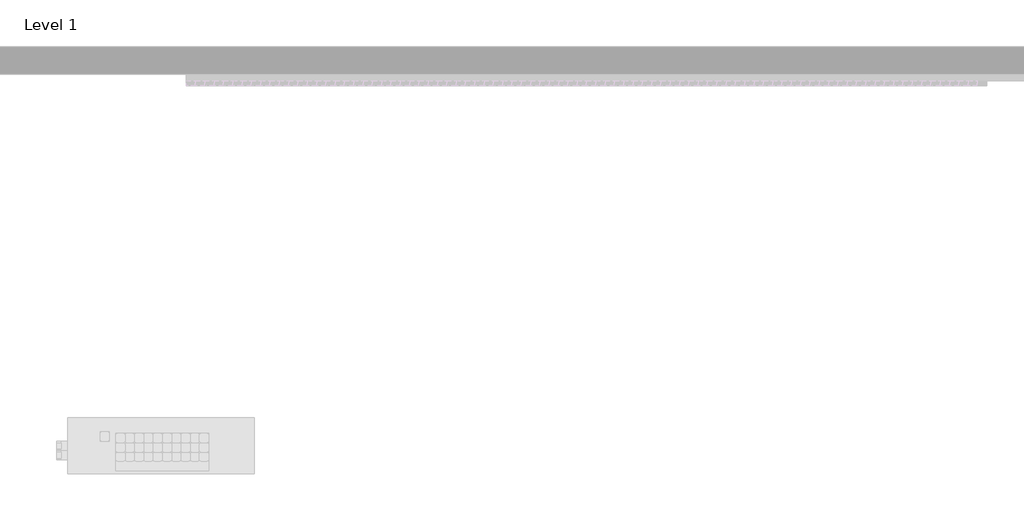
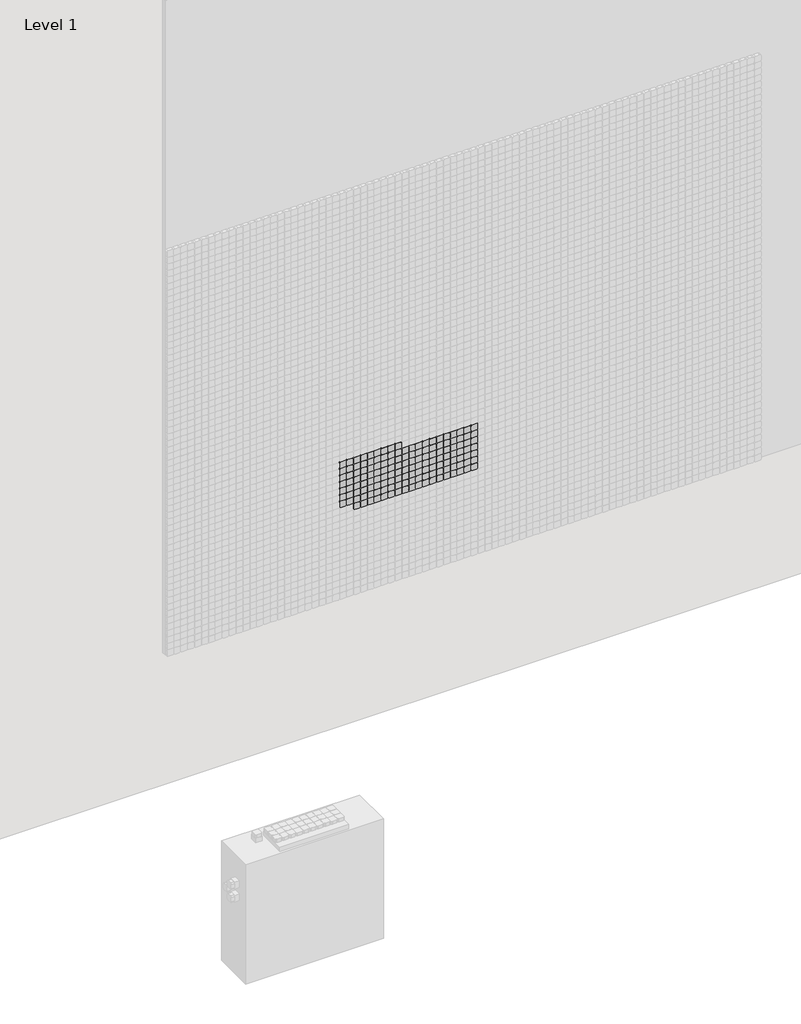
# One storey, part 32 of 71: 147 proxies.
"""IFC4 building model written with IfcOpenShell, lengths in millimetres."""

from ifc_helpers import new_model, si_unit, origin, place, context, project, spatial, transform, mapped, element, save
from components import generic_models_afde289c

model = new_model("IFC4")

# Units and contexts
model_context = context("Model", 3, world=origin())
ifc_project = project(units=[si_unit("LENGTHUNIT", "METRE", prefix="MILLI")], contexts=[model_context])

# Site, building, storey
site = spatial("IfcSite", under=ifc_project)
building = spatial("IfcBuilding", under=site)
storey = spatial("IfcBuildingStorey", under=building, Name="Level 1", Elevation=0.0)

# Proxies
placement = place(None, origin())
generic_models_shape = generic_models_afde289c(model_context)
element("IfcBuildingElementProxy", 1, Name="Pixel_M : Pixel_M", ObjectType="Pixel_M : Pixel_M", at=placement, inside=storey, context=model_context, shape_type="MappedRepresentation", body=[
    mapped(generic_models_shape, transform((6412.4280941, -75.0, 2016.3566215), x_axis=(1.0, 0.0, 0.0), y_axis=(0.0, 0.0, 1.0), z_axis=(0.0, -1.0, 0.0))),
])
element("IfcBuildingElementProxy", 2, Name="Pixel_M : Pixel_M", ObjectType="Pixel_M : Pixel_M", at=placement, inside=storey, context=model_context, shape_type="MappedRepresentation", body=[
    mapped(generic_models_shape, transform((6362.4280941, -75.0, 2016.3566215), x_axis=(1.0, 0.0, 0.0), y_axis=(0.0, 0.0, 1.0), z_axis=(0.0, -1.0, 0.0))),
])
element("IfcBuildingElementProxy", 3, Name="Pixel_M : Pixel_M", ObjectType="Pixel_M : Pixel_M", at=placement, inside=storey, context=model_context, shape_type="MappedRepresentation", body=[
    mapped(generic_models_shape, transform((6312.4280941, -75.0, 2016.3566215), x_axis=(1.0, 0.0, 0.0), y_axis=(0.0, 0.0, 1.0), z_axis=(0.0, -1.0, 0.0))),
])
element("IfcBuildingElementProxy", 4, Name="Pixel_M : Pixel_M", ObjectType="Pixel_M : Pixel_M", at=placement, inside=storey, context=model_context, shape_type="MappedRepresentation", body=[
    mapped(generic_models_shape, transform((6262.4280941, -75.0, 2016.3566215), x_axis=(1.0, 0.0, 0.0), y_axis=(0.0, 0.0, 1.0), z_axis=(0.0, -1.0, 0.0))),
])
element("IfcBuildingElementProxy", 5, Name="Pixel_M : Pixel_M", ObjectType="Pixel_M : Pixel_M", at=placement, inside=storey, context=model_context, shape_type="MappedRepresentation", body=[
    mapped(generic_models_shape, transform((6212.4280941, -75.0, 2016.3566215), x_axis=(1.0, 0.0, 0.0), y_axis=(0.0, 0.0, 1.0), z_axis=(0.0, -1.0, 0.0))),
])
element("IfcBuildingElementProxy", 6, Name="Pixel_M : Pixel_M", ObjectType="Pixel_M : Pixel_M", at=placement, inside=storey, context=model_context, shape_type="MappedRepresentation", body=[
    mapped(generic_models_shape, transform((6162.4280941, -75.0, 2016.3566215), x_axis=(1.0, 0.0, 0.0), y_axis=(0.0, 0.0, 1.0), z_axis=(0.0, -1.0, 0.0))),
])
element("IfcBuildingElementProxy", 7, Name="Pixel_M : Pixel_M", ObjectType="Pixel_M : Pixel_M", at=placement, inside=storey, context=model_context, shape_type="MappedRepresentation", body=[
    mapped(generic_models_shape, transform((6112.4280941, -75.0, 2016.3566215), x_axis=(1.0, 0.0, 0.0), y_axis=(0.0, 0.0, 1.0), z_axis=(0.0, -1.0, 0.0))),
])
element("IfcBuildingElementProxy", 8, Name="Pixel_M : Pixel_M", ObjectType="Pixel_M : Pixel_M", at=placement, inside=storey, context=model_context, shape_type="MappedRepresentation", body=[
    mapped(generic_models_shape, transform((6062.4280941, -75.0, 2016.3566215), x_axis=(1.0, 0.0, 0.0), y_axis=(0.0, 0.0, 1.0), z_axis=(0.0, -1.0, 0.0))),
])
element("IfcBuildingElementProxy", 9, Name="Pixel_M : Pixel_M", ObjectType="Pixel_M : Pixel_M", at=placement, inside=storey, context=model_context, shape_type="MappedRepresentation", body=[
    mapped(generic_models_shape, transform((6012.4280941, -75.0, 2016.3566215), x_axis=(1.0, 0.0, 0.0), y_axis=(0.0, 0.0, 1.0), z_axis=(0.0, -1.0, 0.0))),
])
element("IfcBuildingElementProxy", 10, Name="Pixel_M : Pixel_M", ObjectType="Pixel_M : Pixel_M", at=placement, inside=storey, context=model_context, shape_type="MappedRepresentation", body=[
    mapped(generic_models_shape, transform((6962.4280941, -75.0, 1966.3566215), x_axis=(1.0, 0.0, 0.0), y_axis=(0.0, 0.0, 1.0), z_axis=(0.0, -1.0, 0.0))),
])
element("IfcBuildingElementProxy", 11, Name="Pixel_M : Pixel_M", ObjectType="Pixel_M : Pixel_M", at=placement, inside=storey, context=model_context, shape_type="MappedRepresentation", body=[
    mapped(generic_models_shape, transform((6912.4280941, -75.0, 1966.3566215), x_axis=(1.0, 0.0, 0.0), y_axis=(0.0, 0.0, 1.0), z_axis=(0.0, -1.0, 0.0))),
])
element("IfcBuildingElementProxy", 12, Name="Pixel_M : Pixel_M", ObjectType="Pixel_M : Pixel_M", at=placement, inside=storey, context=model_context, shape_type="MappedRepresentation", body=[
    mapped(generic_models_shape, transform((6862.4280941, -75.0, 1966.3566215), x_axis=(1.0, 0.0, 0.0), y_axis=(0.0, 0.0, 1.0), z_axis=(0.0, -1.0, 0.0))),
])
element("IfcBuildingElementProxy", 13, Name="Pixel_M : Pixel_M", ObjectType="Pixel_M : Pixel_M", at=placement, inside=storey, context=model_context, shape_type="MappedRepresentation", body=[
    mapped(generic_models_shape, transform((6812.4280941, -75.0, 1966.3566215), x_axis=(1.0, 0.0, 0.0), y_axis=(0.0, 0.0, 1.0), z_axis=(0.0, -1.0, 0.0))),
])
element("IfcBuildingElementProxy", 14, Name="Pixel_M : Pixel_M", ObjectType="Pixel_M : Pixel_M", at=placement, inside=storey, context=model_context, shape_type="MappedRepresentation", body=[
    mapped(generic_models_shape, transform((6762.4280941, -75.0, 1966.3566215), x_axis=(1.0, 0.0, 0.0), y_axis=(0.0, 0.0, 1.0), z_axis=(0.0, -1.0, 0.0))),
])
element("IfcBuildingElementProxy", 15, Name="Pixel_M : Pixel_M", ObjectType="Pixel_M : Pixel_M", at=placement, inside=storey, context=model_context, shape_type="MappedRepresentation", body=[
    mapped(generic_models_shape, transform((6712.4280941, -75.0, 1966.3566215), x_axis=(1.0, 0.0, 0.0), y_axis=(0.0, 0.0, 1.0), z_axis=(0.0, -1.0, 0.0))),
])
element("IfcBuildingElementProxy", 16, Name="Pixel_M : Pixel_M", ObjectType="Pixel_M : Pixel_M", at=placement, inside=storey, context=model_context, shape_type="MappedRepresentation", body=[
    mapped(generic_models_shape, transform((6662.4280941, -75.0, 1966.3566215), x_axis=(1.0, 0.0, 0.0), y_axis=(0.0, 0.0, 1.0), z_axis=(0.0, -1.0, 0.0))),
])
element("IfcBuildingElementProxy", 17, Name="Pixel_M : Pixel_M", ObjectType="Pixel_M : Pixel_M", at=placement, inside=storey, context=model_context, shape_type="MappedRepresentation", body=[
    mapped(generic_models_shape, transform((6612.4280941, -75.0, 1966.3566215), x_axis=(1.0, 0.0, 0.0), y_axis=(0.0, 0.0, 1.0), z_axis=(0.0, -1.0, 0.0))),
])
element("IfcBuildingElementProxy", 18, Name="Pixel_M : Pixel_M", ObjectType="Pixel_M : Pixel_M", at=placement, inside=storey, context=model_context, shape_type="MappedRepresentation", body=[
    mapped(generic_models_shape, transform((6562.4280941, -75.0, 1966.3566215), x_axis=(1.0, 0.0, 0.0), y_axis=(0.0, 0.0, 1.0), z_axis=(0.0, -1.0, 0.0))),
])
element("IfcBuildingElementProxy", 19, Name="Pixel_M : Pixel_M", ObjectType="Pixel_M : Pixel_M", at=placement, inside=storey, context=model_context, shape_type="MappedRepresentation", body=[
    mapped(generic_models_shape, transform((6512.4280941, -75.0, 1966.3566215), x_axis=(1.0, 0.0, 0.0), y_axis=(0.0, 0.0, 1.0), z_axis=(0.0, -1.0, 0.0))),
])
element("IfcBuildingElementProxy", 20, Name="Pixel_M : Pixel_M", ObjectType="Pixel_M : Pixel_M", at=placement, inside=storey, context=model_context, shape_type="MappedRepresentation", body=[
    mapped(generic_models_shape, transform((6462.4280941, -75.0, 1966.3566215), x_axis=(1.0, 0.0, 0.0), y_axis=(0.0, 0.0, 1.0), z_axis=(0.0, -1.0, 0.0))),
])
element("IfcBuildingElementProxy", 21, Name="Pixel_M : Pixel_M", ObjectType="Pixel_M : Pixel_M", at=placement, inside=storey, context=model_context, shape_type="MappedRepresentation", body=[
    mapped(generic_models_shape, transform((6412.4280941, -75.0, 1966.3566215), x_axis=(1.0, 0.0, 0.0), y_axis=(0.0, 0.0, 1.0), z_axis=(0.0, -1.0, 0.0))),
])
element("IfcBuildingElementProxy", 22, Name="Pixel_M : Pixel_M", ObjectType="Pixel_M : Pixel_M", at=placement, inside=storey, context=model_context, shape_type="MappedRepresentation", body=[
    mapped(generic_models_shape, transform((6362.4280941, -75.0, 1966.3566215), x_axis=(1.0, 0.0, 0.0), y_axis=(0.0, 0.0, 1.0), z_axis=(0.0, -1.0, 0.0))),
])
element("IfcBuildingElementProxy", 23, Name="Pixel_M : Pixel_M", ObjectType="Pixel_M : Pixel_M", at=placement, inside=storey, context=model_context, shape_type="MappedRepresentation", body=[
    mapped(generic_models_shape, transform((6312.4280941, -75.0, 1966.3566215), x_axis=(1.0, 0.0, 0.0), y_axis=(0.0, 0.0, 1.0), z_axis=(0.0, -1.0, 0.0))),
])
element("IfcBuildingElementProxy", 24, Name="Pixel_M : Pixel_M", ObjectType="Pixel_M : Pixel_M", at=placement, inside=storey, context=model_context, shape_type="MappedRepresentation", body=[
    mapped(generic_models_shape, transform((6262.4280941, -75.0, 1966.3566215), x_axis=(1.0, 0.0, 0.0), y_axis=(0.0, 0.0, 1.0), z_axis=(0.0, -1.0, 0.0))),
])
element("IfcBuildingElementProxy", 25, Name="Pixel_M : Pixel_M", ObjectType="Pixel_M : Pixel_M", at=placement, inside=storey, context=model_context, shape_type="MappedRepresentation", body=[
    mapped(generic_models_shape, transform((6212.4280941, -75.0, 1966.3566215), x_axis=(1.0, 0.0, 0.0), y_axis=(0.0, 0.0, 1.0), z_axis=(0.0, -1.0, 0.0))),
])
element("IfcBuildingElementProxy", 26, Name="Pixel_M : Pixel_M", ObjectType="Pixel_M : Pixel_M", at=placement, inside=storey, context=model_context, shape_type="MappedRepresentation", body=[
    mapped(generic_models_shape, transform((6162.4280941, -75.0, 1966.3566215), x_axis=(1.0, 0.0, 0.0), y_axis=(0.0, 0.0, 1.0), z_axis=(0.0, -1.0, 0.0))),
])
element("IfcBuildingElementProxy", 27, Name="Pixel_M : Pixel_M", ObjectType="Pixel_M : Pixel_M", at=placement, inside=storey, context=model_context, shape_type="MappedRepresentation", body=[
    mapped(generic_models_shape, transform((6112.4280941, -75.0, 1966.3566215), x_axis=(1.0, 0.0, 0.0), y_axis=(0.0, 0.0, 1.0), z_axis=(0.0, -1.0, 0.0))),
])
element("IfcBuildingElementProxy", 28, Name="Pixel_M : Pixel_M", ObjectType="Pixel_M : Pixel_M", at=placement, inside=storey, context=model_context, shape_type="MappedRepresentation", body=[
    mapped(generic_models_shape, transform((6062.4280941, -75.0, 1966.3566215), x_axis=(1.0, 0.0, 0.0), y_axis=(0.0, 0.0, 1.0), z_axis=(0.0, -1.0, 0.0))),
])
element("IfcBuildingElementProxy", 29, Name="Pixel_M : Pixel_M", ObjectType="Pixel_M : Pixel_M", at=placement, inside=storey, context=model_context, shape_type="MappedRepresentation", body=[
    mapped(generic_models_shape, transform((6012.4280941, -75.0, 1966.3566215), x_axis=(1.0, 0.0, 0.0), y_axis=(0.0, 0.0, 1.0), z_axis=(0.0, -1.0, 0.0))),
])
element("IfcBuildingElementProxy", 30, Name="Pixel_M : Pixel_M", ObjectType="Pixel_M : Pixel_M", at=placement, inside=storey, context=model_context, shape_type="MappedRepresentation", body=[
    mapped(generic_models_shape, transform((6962.4280941, -75.0, 1916.3566215), x_axis=(1.0, 0.0, 0.0), y_axis=(0.0, 0.0, 1.0), z_axis=(0.0, -1.0, 0.0))),
])
element("IfcBuildingElementProxy", 31, Name="Pixel_M : Pixel_M", ObjectType="Pixel_M : Pixel_M", at=placement, inside=storey, context=model_context, shape_type="MappedRepresentation", body=[
    mapped(generic_models_shape, transform((6912.4280941, -75.0, 1916.3566215), x_axis=(1.0, 0.0, 0.0), y_axis=(0.0, 0.0, 1.0), z_axis=(0.0, -1.0, 0.0))),
])
element("IfcBuildingElementProxy", 32, Name="Pixel_M : Pixel_M", ObjectType="Pixel_M : Pixel_M", at=placement, inside=storey, context=model_context, shape_type="MappedRepresentation", body=[
    mapped(generic_models_shape, transform((6862.4280941, -75.0, 1916.3566215), x_axis=(1.0, 0.0, 0.0), y_axis=(0.0, 0.0, 1.0), z_axis=(0.0, -1.0, 0.0))),
])
element("IfcBuildingElementProxy", 33, Name="Pixel_M : Pixel_M", ObjectType="Pixel_M : Pixel_M", at=placement, inside=storey, context=model_context, shape_type="MappedRepresentation", body=[
    mapped(generic_models_shape, transform((6812.4280941, -75.0, 1916.3566215), x_axis=(1.0, 0.0, 0.0), y_axis=(0.0, 0.0, 1.0), z_axis=(0.0, -1.0, 0.0))),
])
element("IfcBuildingElementProxy", 34, Name="Pixel_M : Pixel_M", ObjectType="Pixel_M : Pixel_M", at=placement, inside=storey, context=model_context, shape_type="MappedRepresentation", body=[
    mapped(generic_models_shape, transform((6762.4280941, -75.0, 1916.3566215), x_axis=(1.0, 0.0, 0.0), y_axis=(0.0, 0.0, 1.0), z_axis=(0.0, -1.0, 0.0))),
])
element("IfcBuildingElementProxy", 35, Name="Pixel_M : Pixel_M", ObjectType="Pixel_M : Pixel_M", at=placement, inside=storey, context=model_context, shape_type="MappedRepresentation", body=[
    mapped(generic_models_shape, transform((6712.4280941, -75.0, 1916.3566215), x_axis=(1.0, 0.0, 0.0), y_axis=(0.0, 0.0, 1.0), z_axis=(0.0, -1.0, 0.0))),
])
element("IfcBuildingElementProxy", 36, Name="Pixel_M : Pixel_M", ObjectType="Pixel_M : Pixel_M", at=placement, inside=storey, context=model_context, shape_type="MappedRepresentation", body=[
    mapped(generic_models_shape, transform((6662.4280941, -75.0, 1916.3566215), x_axis=(1.0, 0.0, 0.0), y_axis=(0.0, 0.0, 1.0), z_axis=(0.0, -1.0, 0.0))),
])
element("IfcBuildingElementProxy", 37, Name="Pixel_M : Pixel_M", ObjectType="Pixel_M : Pixel_M", at=placement, inside=storey, context=model_context, shape_type="MappedRepresentation", body=[
    mapped(generic_models_shape, transform((6612.4280941, -75.0, 1916.3566215), x_axis=(1.0, 0.0, 0.0), y_axis=(0.0, 0.0, 1.0), z_axis=(0.0, -1.0, 0.0))),
])
element("IfcBuildingElementProxy", 38, Name="Pixel_M : Pixel_M", ObjectType="Pixel_M : Pixel_M", at=placement, inside=storey, context=model_context, shape_type="MappedRepresentation", body=[
    mapped(generic_models_shape, transform((6562.4280941, -75.0, 1916.3566215), x_axis=(1.0, 0.0, 0.0), y_axis=(0.0, 0.0, 1.0), z_axis=(0.0, -1.0, 0.0))),
])
element("IfcBuildingElementProxy", 39, Name="Pixel_M : Pixel_M", ObjectType="Pixel_M : Pixel_M", at=placement, inside=storey, context=model_context, shape_type="MappedRepresentation", body=[
    mapped(generic_models_shape, transform((6512.4280941, -75.0, 1916.3566215), x_axis=(1.0, 0.0, 0.0), y_axis=(0.0, 0.0, 1.0), z_axis=(0.0, -1.0, 0.0))),
])
element("IfcBuildingElementProxy", 40, Name="Pixel_M : Pixel_M", ObjectType="Pixel_M : Pixel_M", at=placement, inside=storey, context=model_context, shape_type="MappedRepresentation", body=[
    mapped(generic_models_shape, transform((6462.4280941, -75.0, 1916.3566215), x_axis=(1.0, 0.0, 0.0), y_axis=(0.0, 0.0, 1.0), z_axis=(0.0, -1.0, 0.0))),
])
element("IfcBuildingElementProxy", 41, Name="Pixel_M : Pixel_M", ObjectType="Pixel_M : Pixel_M", at=placement, inside=storey, context=model_context, shape_type="MappedRepresentation", body=[
    mapped(generic_models_shape, transform((6412.4280941, -75.0, 1916.3566215), x_axis=(1.0, 0.0, 0.0), y_axis=(0.0, 0.0, 1.0), z_axis=(0.0, -1.0, 0.0))),
])
element("IfcBuildingElementProxy", 42, Name="Pixel_M : Pixel_M", ObjectType="Pixel_M : Pixel_M", at=placement, inside=storey, context=model_context, shape_type="MappedRepresentation", body=[
    mapped(generic_models_shape, transform((6362.4280941, -75.0, 1916.3566215), x_axis=(1.0, 0.0, 0.0), y_axis=(0.0, 0.0, 1.0), z_axis=(0.0, -1.0, 0.0))),
])
element("IfcBuildingElementProxy", 43, Name="Pixel_M : Pixel_M", ObjectType="Pixel_M : Pixel_M", at=placement, inside=storey, context=model_context, shape_type="MappedRepresentation", body=[
    mapped(generic_models_shape, transform((6312.4280941, -75.0, 1916.3566215), x_axis=(1.0, 0.0, 0.0), y_axis=(0.0, 0.0, 1.0), z_axis=(0.0, -1.0, 0.0))),
])
element("IfcBuildingElementProxy", 44, Name="Pixel_M : Pixel_M", ObjectType="Pixel_M : Pixel_M", at=placement, inside=storey, context=model_context, shape_type="MappedRepresentation", body=[
    mapped(generic_models_shape, transform((6262.4280941, -75.0, 1916.3566215), x_axis=(1.0, 0.0, 0.0), y_axis=(0.0, 0.0, 1.0), z_axis=(0.0, -1.0, 0.0))),
])
element("IfcBuildingElementProxy", 45, Name="Pixel_M : Pixel_M", ObjectType="Pixel_M : Pixel_M", at=placement, inside=storey, context=model_context, shape_type="MappedRepresentation", body=[
    mapped(generic_models_shape, transform((6212.4280941, -75.0, 1916.3566215), x_axis=(1.0, 0.0, 0.0), y_axis=(0.0, 0.0, 1.0), z_axis=(0.0, -1.0, 0.0))),
])
element("IfcBuildingElementProxy", 46, Name="Pixel_M : Pixel_M", ObjectType="Pixel_M : Pixel_M", at=placement, inside=storey, context=model_context, shape_type="MappedRepresentation", body=[
    mapped(generic_models_shape, transform((6162.4280941, -75.0, 1916.3566215), x_axis=(1.0, 0.0, 0.0), y_axis=(0.0, 0.0, 1.0), z_axis=(0.0, -1.0, 0.0))),
])
element("IfcBuildingElementProxy", 47, Name="Pixel_M : Pixel_M", ObjectType="Pixel_M : Pixel_M", at=placement, inside=storey, context=model_context, shape_type="MappedRepresentation", body=[
    mapped(generic_models_shape, transform((6112.4280941, -75.0, 1916.3566215), x_axis=(1.0, 0.0, 0.0), y_axis=(0.0, 0.0, 1.0), z_axis=(0.0, -1.0, 0.0))),
])
element("IfcBuildingElementProxy", 48, Name="Pixel_M : Pixel_M", ObjectType="Pixel_M : Pixel_M", at=placement, inside=storey, context=model_context, shape_type="MappedRepresentation", body=[
    mapped(generic_models_shape, transform((6062.4280941, -75.0, 1916.3566215), x_axis=(1.0, 0.0, 0.0), y_axis=(0.0, 0.0, 1.0), z_axis=(0.0, -1.0, 0.0))),
])
element("IfcBuildingElementProxy", 49, Name="Pixel_M : Pixel_M", ObjectType="Pixel_M : Pixel_M", at=placement, inside=storey, context=model_context, shape_type="MappedRepresentation", body=[
    mapped(generic_models_shape, transform((6012.4280941, -75.0, 1916.3566215), x_axis=(1.0, 0.0, 0.0), y_axis=(0.0, 0.0, 1.0), z_axis=(0.0, -1.0, 0.0))),
])
element("IfcBuildingElementProxy", 50, Name="Pixel_M : Pixel_M", ObjectType="Pixel_M : Pixel_M", at=placement, inside=storey, context=model_context, shape_type="MappedRepresentation", body=[
    mapped(generic_models_shape, transform((6962.4280941, -75.0, 1866.3566215), x_axis=(1.0, 0.0, 0.0), y_axis=(0.0, 0.0, 1.0), z_axis=(0.0, -1.0, 0.0))),
])
element("IfcBuildingElementProxy", 51, Name="Pixel_M : Pixel_M", ObjectType="Pixel_M : Pixel_M", at=placement, inside=storey, context=model_context, shape_type="MappedRepresentation", body=[
    mapped(generic_models_shape, transform((6912.4280941, -75.0, 1866.3566215), x_axis=(1.0, 0.0, 0.0), y_axis=(0.0, 0.0, 1.0), z_axis=(0.0, -1.0, 0.0))),
])
element("IfcBuildingElementProxy", 52, Name="Pixel_M : Pixel_M", ObjectType="Pixel_M : Pixel_M", at=placement, inside=storey, context=model_context, shape_type="MappedRepresentation", body=[
    mapped(generic_models_shape, transform((6862.4280941, -75.0, 1866.3566215), x_axis=(1.0, 0.0, 0.0), y_axis=(0.0, 0.0, 1.0), z_axis=(0.0, -1.0, 0.0))),
])
element("IfcBuildingElementProxy", 53, Name="Pixel_M : Pixel_M", ObjectType="Pixel_M : Pixel_M", at=placement, inside=storey, context=model_context, shape_type="MappedRepresentation", body=[
    mapped(generic_models_shape, transform((6812.4280941, -75.0, 1866.3566215), x_axis=(1.0, 0.0, 0.0), y_axis=(0.0, 0.0, 1.0), z_axis=(0.0, -1.0, 0.0))),
])
element("IfcBuildingElementProxy", 54, Name="Pixel_M : Pixel_M", ObjectType="Pixel_M : Pixel_M", at=placement, inside=storey, context=model_context, shape_type="MappedRepresentation", body=[
    mapped(generic_models_shape, transform((6762.4280941, -75.0, 1866.3566215), x_axis=(1.0, 0.0, 0.0), y_axis=(0.0, 0.0, 1.0), z_axis=(0.0, -1.0, 0.0))),
])
element("IfcBuildingElementProxy", 55, Name="Pixel_M : Pixel_M", ObjectType="Pixel_M : Pixel_M", at=placement, inside=storey, context=model_context, shape_type="MappedRepresentation", body=[
    mapped(generic_models_shape, transform((6712.4280941, -75.0, 1866.3566215), x_axis=(1.0, 0.0, 0.0), y_axis=(0.0, 0.0, 1.0), z_axis=(0.0, -1.0, 0.0))),
])
element("IfcBuildingElementProxy", 56, Name="Pixel_M : Pixel_M", ObjectType="Pixel_M : Pixel_M", at=placement, inside=storey, context=model_context, shape_type="MappedRepresentation", body=[
    mapped(generic_models_shape, transform((6662.4280941, -75.0, 1866.3566215), x_axis=(1.0, 0.0, 0.0), y_axis=(0.0, 0.0, 1.0), z_axis=(0.0, -1.0, 0.0))),
])
element("IfcBuildingElementProxy", 57, Name="Pixel_M : Pixel_M", ObjectType="Pixel_M : Pixel_M", at=placement, inside=storey, context=model_context, shape_type="MappedRepresentation", body=[
    mapped(generic_models_shape, transform((6612.4280941, -75.0, 1866.3566215), x_axis=(1.0, 0.0, 0.0), y_axis=(0.0, 0.0, 1.0), z_axis=(0.0, -1.0, 0.0))),
])
element("IfcBuildingElementProxy", 58, Name="Pixel_M : Pixel_M", ObjectType="Pixel_M : Pixel_M", at=placement, inside=storey, context=model_context, shape_type="MappedRepresentation", body=[
    mapped(generic_models_shape, transform((6562.4280941, -75.0, 1866.3566215), x_axis=(1.0, 0.0, 0.0), y_axis=(0.0, 0.0, 1.0), z_axis=(0.0, -1.0, 0.0))),
])
element("IfcBuildingElementProxy", 59, Name="Pixel_M : Pixel_M", ObjectType="Pixel_M : Pixel_M", at=placement, inside=storey, context=model_context, shape_type="MappedRepresentation", body=[
    mapped(generic_models_shape, transform((6512.4280941, -75.0, 1866.3566215), x_axis=(1.0, 0.0, 0.0), y_axis=(0.0, 0.0, 1.0), z_axis=(0.0, -1.0, 0.0))),
])
element("IfcBuildingElementProxy", 60, Name="Pixel_M : Pixel_M", ObjectType="Pixel_M : Pixel_M", at=placement, inside=storey, context=model_context, shape_type="MappedRepresentation", body=[
    mapped(generic_models_shape, transform((6462.4280941, -75.0, 1866.3566215), x_axis=(1.0, 0.0, 0.0), y_axis=(0.0, 0.0, 1.0), z_axis=(0.0, -1.0, 0.0))),
])
element("IfcBuildingElementProxy", 61, Name="Pixel_M : Pixel_M", ObjectType="Pixel_M : Pixel_M", at=placement, inside=storey, context=model_context, shape_type="MappedRepresentation", body=[
    mapped(generic_models_shape, transform((6412.4280941, -75.0, 1866.3566215), x_axis=(1.0, 0.0, 0.0), y_axis=(0.0, 0.0, 1.0), z_axis=(0.0, -1.0, 0.0))),
])
element("IfcBuildingElementProxy", 62, Name="Pixel_M : Pixel_M", ObjectType="Pixel_M : Pixel_M", at=placement, inside=storey, context=model_context, shape_type="MappedRepresentation", body=[
    mapped(generic_models_shape, transform((6362.4280941, -75.0, 1866.3566215), x_axis=(1.0, 0.0, 0.0), y_axis=(0.0, 0.0, 1.0), z_axis=(0.0, -1.0, 0.0))),
])
element("IfcBuildingElementProxy", 63, Name="Pixel_M : Pixel_M", ObjectType="Pixel_M : Pixel_M", at=placement, inside=storey, context=model_context, shape_type="MappedRepresentation", body=[
    mapped(generic_models_shape, transform((6312.4280941, -75.0, 1866.3566215), x_axis=(1.0, 0.0, 0.0), y_axis=(0.0, 0.0, 1.0), z_axis=(0.0, -1.0, 0.0))),
])
element("IfcBuildingElementProxy", 64, Name="Pixel_M : Pixel_M", ObjectType="Pixel_M : Pixel_M", at=placement, inside=storey, context=model_context, shape_type="MappedRepresentation", body=[
    mapped(generic_models_shape, transform((6262.4280941, -75.0, 1866.3566215), x_axis=(1.0, 0.0, 0.0), y_axis=(0.0, 0.0, 1.0), z_axis=(0.0, -1.0, 0.0))),
])
element("IfcBuildingElementProxy", 65, Name="Pixel_M : Pixel_M", ObjectType="Pixel_M : Pixel_M", at=placement, inside=storey, context=model_context, shape_type="MappedRepresentation", body=[
    mapped(generic_models_shape, transform((6212.4280941, -75.0, 1866.3566215), x_axis=(1.0, 0.0, 0.0), y_axis=(0.0, 0.0, 1.0), z_axis=(0.0, -1.0, 0.0))),
])
element("IfcBuildingElementProxy", 66, Name="Pixel_M : Pixel_M", ObjectType="Pixel_M : Pixel_M", at=placement, inside=storey, context=model_context, shape_type="MappedRepresentation", body=[
    mapped(generic_models_shape, transform((6162.4280941, -75.0, 1866.3566215), x_axis=(1.0, 0.0, 0.0), y_axis=(0.0, 0.0, 1.0), z_axis=(0.0, -1.0, 0.0))),
])
element("IfcBuildingElementProxy", 67, Name="Pixel_M : Pixel_M", ObjectType="Pixel_M : Pixel_M", at=placement, inside=storey, context=model_context, shape_type="MappedRepresentation", body=[
    mapped(generic_models_shape, transform((6112.4280941, -75.0, 1866.3566215), x_axis=(1.0, 0.0, 0.0), y_axis=(0.0, 0.0, 1.0), z_axis=(0.0, -1.0, 0.0))),
])
element("IfcBuildingElementProxy", 68, Name="Pixel_M : Pixel_M", ObjectType="Pixel_M : Pixel_M", at=placement, inside=storey, context=model_context, shape_type="MappedRepresentation", body=[
    mapped(generic_models_shape, transform((6062.4280941, -75.0, 1866.3566215), x_axis=(1.0, 0.0, 0.0), y_axis=(0.0, 0.0, 1.0), z_axis=(0.0, -1.0, 0.0))),
])
element("IfcBuildingElementProxy", 69, Name="Pixel_M : Pixel_M", ObjectType="Pixel_M : Pixel_M", at=placement, inside=storey, context=model_context, shape_type="MappedRepresentation", body=[
    mapped(generic_models_shape, transform((6012.4280941, -75.0, 1866.3566215), x_axis=(1.0, 0.0, 0.0), y_axis=(0.0, 0.0, 1.0), z_axis=(0.0, -1.0, 0.0))),
])
element("IfcBuildingElementProxy", 70, Name="Pixel_M : Pixel_M", ObjectType="Pixel_M : Pixel_M", at=placement, inside=storey, context=model_context, shape_type="MappedRepresentation", body=[
    mapped(generic_models_shape, transform((6962.4280941, -75.0, 1816.3566215), x_axis=(1.0, 0.0, 0.0), y_axis=(0.0, 0.0, 1.0), z_axis=(0.0, -1.0, 0.0))),
])
element("IfcBuildingElementProxy", 71, Name="Pixel_M : Pixel_M", ObjectType="Pixel_M : Pixel_M", at=placement, inside=storey, context=model_context, shape_type="MappedRepresentation", body=[
    mapped(generic_models_shape, transform((6912.4280941, -75.0, 1816.3566215), x_axis=(1.0, 0.0, 0.0), y_axis=(0.0, 0.0, 1.0), z_axis=(0.0, -1.0, 0.0))),
])
element("IfcBuildingElementProxy", 72, Name="Pixel_M : Pixel_M", ObjectType="Pixel_M : Pixel_M", at=placement, inside=storey, context=model_context, shape_type="MappedRepresentation", body=[
    mapped(generic_models_shape, transform((6862.4280941, -75.0, 1816.3566215), x_axis=(1.0, 0.0, 0.0), y_axis=(0.0, 0.0, 1.0), z_axis=(0.0, -1.0, 0.0))),
])
element("IfcBuildingElementProxy", 73, Name="Pixel_M : Pixel_M", ObjectType="Pixel_M : Pixel_M", at=placement, inside=storey, context=model_context, shape_type="MappedRepresentation", body=[
    mapped(generic_models_shape, transform((6812.4280941, -75.0, 1816.3566215), x_axis=(1.0, 0.0, 0.0), y_axis=(0.0, 0.0, 1.0), z_axis=(0.0, -1.0, 0.0))),
])
element("IfcBuildingElementProxy", 74, Name="Pixel_M : Pixel_M", ObjectType="Pixel_M : Pixel_M", at=placement, inside=storey, context=model_context, shape_type="MappedRepresentation", body=[
    mapped(generic_models_shape, transform((6762.4280941, -75.0, 1816.3566215), x_axis=(1.0, 0.0, 0.0), y_axis=(0.0, 0.0, 1.0), z_axis=(0.0, -1.0, 0.0))),
])
element("IfcBuildingElementProxy", 75, Name="Pixel_M : Pixel_M", ObjectType="Pixel_M : Pixel_M", at=placement, inside=storey, context=model_context, shape_type="MappedRepresentation", body=[
    mapped(generic_models_shape, transform((6712.4280941, -75.0, 1816.3566215), x_axis=(1.0, 0.0, 0.0), y_axis=(0.0, 0.0, 1.0), z_axis=(0.0, -1.0, 0.0))),
])
element("IfcBuildingElementProxy", 76, Name="Pixel_M : Pixel_M", ObjectType="Pixel_M : Pixel_M", at=placement, inside=storey, context=model_context, shape_type="MappedRepresentation", body=[
    mapped(generic_models_shape, transform((6662.4280941, -75.0, 1816.3566215), x_axis=(1.0, 0.0, 0.0), y_axis=(0.0, 0.0, 1.0), z_axis=(0.0, -1.0, 0.0))),
])
element("IfcBuildingElementProxy", 77, Name="Pixel_M : Pixel_M", ObjectType="Pixel_M : Pixel_M", at=placement, inside=storey, context=model_context, shape_type="MappedRepresentation", body=[
    mapped(generic_models_shape, transform((6612.4280941, -75.0, 1816.3566215), x_axis=(1.0, 0.0, 0.0), y_axis=(0.0, 0.0, 1.0), z_axis=(0.0, -1.0, 0.0))),
])
element("IfcBuildingElementProxy", 78, Name="Pixel_M : Pixel_M", ObjectType="Pixel_M : Pixel_M", at=placement, inside=storey, context=model_context, shape_type="MappedRepresentation", body=[
    mapped(generic_models_shape, transform((6562.4280941, -75.0, 1816.3566215), x_axis=(1.0, 0.0, 0.0), y_axis=(0.0, 0.0, 1.0), z_axis=(0.0, -1.0, 0.0))),
])
element("IfcBuildingElementProxy", 79, Name="Pixel_M : Pixel_M", ObjectType="Pixel_M : Pixel_M", at=placement, inside=storey, context=model_context, shape_type="MappedRepresentation", body=[
    mapped(generic_models_shape, transform((6512.4280941, -75.0, 1816.3566215), x_axis=(1.0, 0.0, 0.0), y_axis=(0.0, 0.0, 1.0), z_axis=(0.0, -1.0, 0.0))),
])
element("IfcBuildingElementProxy", 80, Name="Pixel_M : Pixel_M", ObjectType="Pixel_M : Pixel_M", at=placement, inside=storey, context=model_context, shape_type="MappedRepresentation", body=[
    mapped(generic_models_shape, transform((6462.4280941, -75.0, 1816.3566215), x_axis=(1.0, 0.0, 0.0), y_axis=(0.0, 0.0, 1.0), z_axis=(0.0, -1.0, 0.0))),
])
element("IfcBuildingElementProxy", 81, Name="Pixel_M : Pixel_M", ObjectType="Pixel_M : Pixel_M", at=placement, inside=storey, context=model_context, shape_type="MappedRepresentation", body=[
    mapped(generic_models_shape, transform((6412.4280941, -75.0, 1816.3566215), x_axis=(1.0, 0.0, 0.0), y_axis=(0.0, 0.0, 1.0), z_axis=(0.0, -1.0, 0.0))),
])
element("IfcBuildingElementProxy", 82, Name="Pixel_M : Pixel_M", ObjectType="Pixel_M : Pixel_M", at=placement, inside=storey, context=model_context, shape_type="MappedRepresentation", body=[
    mapped(generic_models_shape, transform((6362.4280941, -75.0, 1816.3566215), x_axis=(1.0, 0.0, 0.0), y_axis=(0.0, 0.0, 1.0), z_axis=(0.0, -1.0, 0.0))),
])
element("IfcBuildingElementProxy", 83, Name="Pixel_M : Pixel_M", ObjectType="Pixel_M : Pixel_M", at=placement, inside=storey, context=model_context, shape_type="MappedRepresentation", body=[
    mapped(generic_models_shape, transform((6312.4280941, -75.0, 1816.3566215), x_axis=(1.0, 0.0, 0.0), y_axis=(0.0, 0.0, 1.0), z_axis=(0.0, -1.0, 0.0))),
])
element("IfcBuildingElementProxy", 84, Name="Pixel_M : Pixel_M", ObjectType="Pixel_M : Pixel_M", at=placement, inside=storey, context=model_context, shape_type="MappedRepresentation", body=[
    mapped(generic_models_shape, transform((6262.4280941, -75.0, 1816.3566215), x_axis=(1.0, 0.0, 0.0), y_axis=(0.0, 0.0, 1.0), z_axis=(0.0, -1.0, 0.0))),
])
element("IfcBuildingElementProxy", 85, Name="Pixel_M : Pixel_M", ObjectType="Pixel_M : Pixel_M", at=placement, inside=storey, context=model_context, shape_type="MappedRepresentation", body=[
    mapped(generic_models_shape, transform((6212.4280941, -75.0, 1816.3566215), x_axis=(1.0, 0.0, 0.0), y_axis=(0.0, 0.0, 1.0), z_axis=(0.0, -1.0, 0.0))),
])
element("IfcBuildingElementProxy", 86, Name="Pixel_M : Pixel_M", ObjectType="Pixel_M : Pixel_M", at=placement, inside=storey, context=model_context, shape_type="MappedRepresentation", body=[
    mapped(generic_models_shape, transform((6162.4280941, -75.0, 1816.3566215), x_axis=(1.0, 0.0, 0.0), y_axis=(0.0, 0.0, 1.0), z_axis=(0.0, -1.0, 0.0))),
])
element("IfcBuildingElementProxy", 87, Name="Pixel_M : Pixel_M", ObjectType="Pixel_M : Pixel_M", at=placement, inside=storey, context=model_context, shape_type="MappedRepresentation", body=[
    mapped(generic_models_shape, transform((6112.4280941, -75.0, 1816.3566215), x_axis=(1.0, 0.0, 0.0), y_axis=(0.0, 0.0, 1.0), z_axis=(0.0, -1.0, 0.0))),
])
element("IfcBuildingElementProxy", 88, Name="Pixel_M : Pixel_M", ObjectType="Pixel_M : Pixel_M", at=placement, inside=storey, context=model_context, shape_type="MappedRepresentation", body=[
    mapped(generic_models_shape, transform((6062.4280941, -75.0, 1816.3566215), x_axis=(1.0, 0.0, 0.0), y_axis=(0.0, 0.0, 1.0), z_axis=(0.0, -1.0, 0.0))),
])
element("IfcBuildingElementProxy", 89, Name="Pixel_M : Pixel_M", ObjectType="Pixel_M : Pixel_M", at=placement, inside=storey, context=model_context, shape_type="MappedRepresentation", body=[
    mapped(generic_models_shape, transform((6012.4280941, -75.0, 1816.3566215), x_axis=(1.0, 0.0, 0.0), y_axis=(0.0, 0.0, 1.0), z_axis=(0.0, -1.0, 0.0))),
])
element("IfcBuildingElementProxy", 90, Name="Pixel_M : Pixel_M", ObjectType="Pixel_M : Pixel_M", at=placement, inside=storey, context=model_context, shape_type="MappedRepresentation", body=[
    mapped(generic_models_shape, transform((6962.4280941, -75.0, 1766.3566215), x_axis=(1.0, 0.0, 0.0), y_axis=(0.0, 0.0, 1.0), z_axis=(0.0, -1.0, 0.0))),
])
element("IfcBuildingElementProxy", 91, Name="Pixel_M : Pixel_M", ObjectType="Pixel_M : Pixel_M", at=placement, inside=storey, context=model_context, shape_type="MappedRepresentation", body=[
    mapped(generic_models_shape, transform((6912.4280941, -75.0, 1766.3566215), x_axis=(1.0, 0.0, 0.0), y_axis=(0.0, 0.0, 1.0), z_axis=(0.0, -1.0, 0.0))),
])
element("IfcBuildingElementProxy", 92, Name="Pixel_M : Pixel_M", ObjectType="Pixel_M : Pixel_M", at=placement, inside=storey, context=model_context, shape_type="MappedRepresentation", body=[
    mapped(generic_models_shape, transform((6862.4280941, -75.0, 1766.3566215), x_axis=(1.0, 0.0, 0.0), y_axis=(0.0, 0.0, 1.0), z_axis=(0.0, -1.0, 0.0))),
])
element("IfcBuildingElementProxy", 93, Name="Pixel_M : Pixel_M", ObjectType="Pixel_M : Pixel_M", at=placement, inside=storey, context=model_context, shape_type="MappedRepresentation", body=[
    mapped(generic_models_shape, transform((6812.4280941, -75.0, 1766.3566215), x_axis=(1.0, 0.0, 0.0), y_axis=(0.0, 0.0, 1.0), z_axis=(0.0, -1.0, 0.0))),
])
element("IfcBuildingElementProxy", 94, Name="Pixel_M : Pixel_M", ObjectType="Pixel_M : Pixel_M", at=placement, inside=storey, context=model_context, shape_type="MappedRepresentation", body=[
    mapped(generic_models_shape, transform((6762.4280941, -75.0, 1766.3566215), x_axis=(1.0, 0.0, 0.0), y_axis=(0.0, 0.0, 1.0), z_axis=(0.0, -1.0, 0.0))),
])
element("IfcBuildingElementProxy", 95, Name="Pixel_M : Pixel_M", ObjectType="Pixel_M : Pixel_M", at=placement, inside=storey, context=model_context, shape_type="MappedRepresentation", body=[
    mapped(generic_models_shape, transform((6712.4280941, -75.0, 1766.3566215), x_axis=(1.0, 0.0, 0.0), y_axis=(0.0, 0.0, 1.0), z_axis=(0.0, -1.0, 0.0))),
])
element("IfcBuildingElementProxy", 96, Name="Pixel_M : Pixel_M", ObjectType="Pixel_M : Pixel_M", at=placement, inside=storey, context=model_context, shape_type="MappedRepresentation", body=[
    mapped(generic_models_shape, transform((6662.4280941, -75.0, 1766.3566215), x_axis=(1.0, 0.0, 0.0), y_axis=(0.0, 0.0, 1.0), z_axis=(0.0, -1.0, 0.0))),
])
element("IfcBuildingElementProxy", 97, Name="Pixel_M : Pixel_M", ObjectType="Pixel_M : Pixel_M", at=placement, inside=storey, context=model_context, shape_type="MappedRepresentation", body=[
    mapped(generic_models_shape, transform((6612.4280941, -75.0, 1766.3566215), x_axis=(1.0, 0.0, 0.0), y_axis=(0.0, 0.0, 1.0), z_axis=(0.0, -1.0, 0.0))),
])
element("IfcBuildingElementProxy", 98, Name="Pixel_M : Pixel_M", ObjectType="Pixel_M : Pixel_M", at=placement, inside=storey, context=model_context, shape_type="MappedRepresentation", body=[
    mapped(generic_models_shape, transform((6562.4280941, -75.0, 1766.3566215), x_axis=(1.0, 0.0, 0.0), y_axis=(0.0, 0.0, 1.0), z_axis=(0.0, -1.0, 0.0))),
])
element("IfcBuildingElementProxy", 99, Name="Pixel_M : Pixel_M", ObjectType="Pixel_M : Pixel_M", at=placement, inside=storey, context=model_context, shape_type="MappedRepresentation", body=[
    mapped(generic_models_shape, transform((6512.4280941, -75.0, 1766.3566215), x_axis=(1.0, 0.0, 0.0), y_axis=(0.0, 0.0, 1.0), z_axis=(0.0, -1.0, 0.0))),
])
element("IfcBuildingElementProxy", 100, Name="Pixel_M : Pixel_M", ObjectType="Pixel_M : Pixel_M", at=placement, inside=storey, context=model_context, shape_type="MappedRepresentation", body=[
    mapped(generic_models_shape, transform((6462.4280941, -75.0, 1766.3566215), x_axis=(1.0, 0.0, 0.0), y_axis=(0.0, 0.0, 1.0), z_axis=(0.0, -1.0, 0.0))),
])
element("IfcBuildingElementProxy", 101, Name="Pixel_M : Pixel_M", ObjectType="Pixel_M : Pixel_M", at=placement, inside=storey, context=model_context, shape_type="MappedRepresentation", body=[
    mapped(generic_models_shape, transform((6412.4280941, -75.0, 1766.3566215), x_axis=(1.0, 0.0, 0.0), y_axis=(0.0, 0.0, 1.0), z_axis=(0.0, -1.0, 0.0))),
])
element("IfcBuildingElementProxy", 102, Name="Pixel_M : Pixel_M", ObjectType="Pixel_M : Pixel_M", at=placement, inside=storey, context=model_context, shape_type="MappedRepresentation", body=[
    mapped(generic_models_shape, transform((6362.4280941, -75.0, 1766.3566215), x_axis=(1.0, 0.0, 0.0), y_axis=(0.0, 0.0, 1.0), z_axis=(0.0, -1.0, 0.0))),
])
element("IfcBuildingElementProxy", 103, Name="Pixel_M : Pixel_M", ObjectType="Pixel_M : Pixel_M", at=placement, inside=storey, context=model_context, shape_type="MappedRepresentation", body=[
    mapped(generic_models_shape, transform((6312.4280941, -75.0, 1766.3566215), x_axis=(1.0, 0.0, 0.0), y_axis=(0.0, 0.0, 1.0), z_axis=(0.0, -1.0, 0.0))),
])
element("IfcBuildingElementProxy", 104, Name="Pixel_M : Pixel_M", ObjectType="Pixel_M : Pixel_M", at=placement, inside=storey, context=model_context, shape_type="MappedRepresentation", body=[
    mapped(generic_models_shape, transform((6262.4280941, -75.0, 1766.3566215), x_axis=(1.0, 0.0, 0.0), y_axis=(0.0, 0.0, 1.0), z_axis=(0.0, -1.0, 0.0))),
])
element("IfcBuildingElementProxy", 105, Name="Pixel_M : Pixel_M", ObjectType="Pixel_M : Pixel_M", at=placement, inside=storey, context=model_context, shape_type="MappedRepresentation", body=[
    mapped(generic_models_shape, transform((6212.4280941, -75.0, 1766.3566215), x_axis=(1.0, 0.0, 0.0), y_axis=(0.0, 0.0, 1.0), z_axis=(0.0, -1.0, 0.0))),
])
element("IfcBuildingElementProxy", 106, Name="Pixel_M : Pixel_M", ObjectType="Pixel_M : Pixel_M", at=placement, inside=storey, context=model_context, shape_type="MappedRepresentation", body=[
    mapped(generic_models_shape, transform((6162.4280941, -75.0, 1766.3566215), x_axis=(1.0, 0.0, 0.0), y_axis=(0.0, 0.0, 1.0), z_axis=(0.0, -1.0, 0.0))),
])
element("IfcBuildingElementProxy", 107, Name="Pixel_M : Pixel_M", ObjectType="Pixel_M : Pixel_M", at=placement, inside=storey, context=model_context, shape_type="MappedRepresentation", body=[
    mapped(generic_models_shape, transform((6112.4280941, -75.0, 1766.3566215), x_axis=(1.0, 0.0, 0.0), y_axis=(0.0, 0.0, 1.0), z_axis=(0.0, -1.0, 0.0))),
])
element("IfcBuildingElementProxy", 108, Name="Pixel_M : Pixel_M", ObjectType="Pixel_M : Pixel_M", at=placement, inside=storey, context=model_context, shape_type="MappedRepresentation", body=[
    mapped(generic_models_shape, transform((6062.4280941, -75.0, 1766.3566215), x_axis=(1.0, 0.0, 0.0), y_axis=(0.0, 0.0, 1.0), z_axis=(0.0, -1.0, 0.0))),
])
element("IfcBuildingElementProxy", 109, Name="Pixel_M : Pixel_M", ObjectType="Pixel_M : Pixel_M", at=placement, inside=storey, context=model_context, shape_type="MappedRepresentation", body=[
    mapped(generic_models_shape, transform((6012.4280941, -75.0, 1766.3566215), x_axis=(1.0, 0.0, 0.0), y_axis=(0.0, 0.0, 1.0), z_axis=(0.0, -1.0, 0.0))),
])
element("IfcBuildingElementProxy", 110, Name="Pixel_M : Pixel_M", ObjectType="Pixel_M : Pixel_M", at=placement, inside=storey, context=model_context, shape_type="MappedRepresentation", body=[
    mapped(generic_models_shape, transform((6962.4280941, -75.0, 1716.3566215), x_axis=(1.0, 0.0, 0.0), y_axis=(0.0, 0.0, 1.0), z_axis=(0.0, -1.0, 0.0))),
])
element("IfcBuildingElementProxy", 111, Name="Pixel_M : Pixel_M", ObjectType="Pixel_M : Pixel_M", at=placement, inside=storey, context=model_context, shape_type="MappedRepresentation", body=[
    mapped(generic_models_shape, transform((6912.4280941, -75.0, 1716.3566215), x_axis=(1.0, 0.0, 0.0), y_axis=(0.0, 0.0, 1.0), z_axis=(0.0, -1.0, 0.0))),
])
element("IfcBuildingElementProxy", 112, Name="Pixel_M : Pixel_M", ObjectType="Pixel_M : Pixel_M", at=placement, inside=storey, context=model_context, shape_type="MappedRepresentation", body=[
    mapped(generic_models_shape, transform((6862.4280941, -75.0, 1716.3566215), x_axis=(1.0, 0.0, 0.0), y_axis=(0.0, 0.0, 1.0), z_axis=(0.0, -1.0, 0.0))),
])
element("IfcBuildingElementProxy", 113, Name="Pixel_M : Pixel_M", ObjectType="Pixel_M : Pixel_M", at=placement, inside=storey, context=model_context, shape_type="MappedRepresentation", body=[
    mapped(generic_models_shape, transform((6812.4280941, -75.0, 1716.3566215), x_axis=(1.0, 0.0, 0.0), y_axis=(0.0, 0.0, 1.0), z_axis=(0.0, -1.0, 0.0))),
])
element("IfcBuildingElementProxy", 114, Name="Pixel_M : Pixel_M", ObjectType="Pixel_M : Pixel_M", at=placement, inside=storey, context=model_context, shape_type="MappedRepresentation", body=[
    mapped(generic_models_shape, transform((6762.4280941, -75.0, 1716.3566215), x_axis=(1.0, 0.0, 0.0), y_axis=(0.0, 0.0, 1.0), z_axis=(0.0, -1.0, 0.0))),
])
element("IfcBuildingElementProxy", 115, Name="Pixel_M : Pixel_M", ObjectType="Pixel_M : Pixel_M", at=placement, inside=storey, context=model_context, shape_type="MappedRepresentation", body=[
    mapped(generic_models_shape, transform((6712.4280941, -75.0, 1716.3566215), x_axis=(1.0, 0.0, 0.0), y_axis=(0.0, 0.0, 1.0), z_axis=(0.0, -1.0, 0.0))),
])
element("IfcBuildingElementProxy", 116, Name="Pixel_M : Pixel_M", ObjectType="Pixel_M : Pixel_M", at=placement, inside=storey, context=model_context, shape_type="MappedRepresentation", body=[
    mapped(generic_models_shape, transform((6662.4280941, -75.0, 1716.3566215), x_axis=(1.0, 0.0, 0.0), y_axis=(0.0, 0.0, 1.0), z_axis=(0.0, -1.0, 0.0))),
])
element("IfcBuildingElementProxy", 117, Name="Pixel_M : Pixel_M", ObjectType="Pixel_M : Pixel_M", at=placement, inside=storey, context=model_context, shape_type="MappedRepresentation", body=[
    mapped(generic_models_shape, transform((6612.4280941, -75.0, 1716.3566215), x_axis=(1.0, 0.0, 0.0), y_axis=(0.0, 0.0, 1.0), z_axis=(0.0, -1.0, 0.0))),
])
element("IfcBuildingElementProxy", 118, Name="Pixel_M : Pixel_M", ObjectType="Pixel_M : Pixel_M", at=placement, inside=storey, context=model_context, shape_type="MappedRepresentation", body=[
    mapped(generic_models_shape, transform((6562.4280941, -75.0, 1716.3566215), x_axis=(1.0, 0.0, 0.0), y_axis=(0.0, 0.0, 1.0), z_axis=(0.0, -1.0, 0.0))),
])
element("IfcBuildingElementProxy", 119, Name="Pixel_M : Pixel_M", ObjectType="Pixel_M : Pixel_M", at=placement, inside=storey, context=model_context, shape_type="MappedRepresentation", body=[
    mapped(generic_models_shape, transform((6512.4280941, -75.0, 1716.3566215), x_axis=(1.0, 0.0, 0.0), y_axis=(0.0, 0.0, 1.0), z_axis=(0.0, -1.0, 0.0))),
])
element("IfcBuildingElementProxy", 120, Name="Pixel_M : Pixel_M", ObjectType="Pixel_M : Pixel_M", at=placement, inside=storey, context=model_context, shape_type="MappedRepresentation", body=[
    mapped(generic_models_shape, transform((6462.4280941, -75.0, 1716.3566215), x_axis=(1.0, 0.0, 0.0), y_axis=(0.0, 0.0, 1.0), z_axis=(0.0, -1.0, 0.0))),
])
element("IfcBuildingElementProxy", 121, Name="Pixel_M : Pixel_M", ObjectType="Pixel_M : Pixel_M", at=placement, inside=storey, context=model_context, shape_type="MappedRepresentation", body=[
    mapped(generic_models_shape, transform((6412.4280941, -75.0, 1716.3566215), x_axis=(1.0, 0.0, 0.0), y_axis=(0.0, 0.0, 1.0), z_axis=(0.0, -1.0, 0.0))),
])
element("IfcBuildingElementProxy", 122, Name="Pixel_M : Pixel_M", ObjectType="Pixel_M : Pixel_M", at=placement, inside=storey, context=model_context, shape_type="MappedRepresentation", body=[
    mapped(generic_models_shape, transform((6362.4280941, -75.0, 1716.3566215), x_axis=(1.0, 0.0, 0.0), y_axis=(0.0, 0.0, 1.0), z_axis=(0.0, -1.0, 0.0))),
])
element("IfcBuildingElementProxy", 123, Name="Pixel_M : Pixel_M", ObjectType="Pixel_M : Pixel_M", at=placement, inside=storey, context=model_context, shape_type="MappedRepresentation", body=[
    mapped(generic_models_shape, transform((6312.4280941, -75.0, 1716.3566215), x_axis=(1.0, 0.0, 0.0), y_axis=(0.0, 0.0, 1.0), z_axis=(0.0, -1.0, 0.0))),
])
element("IfcBuildingElementProxy", 124, Name="Pixel_M : Pixel_M", ObjectType="Pixel_M : Pixel_M", at=placement, inside=storey, context=model_context, shape_type="MappedRepresentation", body=[
    mapped(generic_models_shape, transform((6262.4280941, -75.0, 1716.3566215), x_axis=(1.0, 0.0, 0.0), y_axis=(0.0, 0.0, 1.0), z_axis=(0.0, -1.0, 0.0))),
])
element("IfcBuildingElementProxy", 125, Name="Pixel_M : Pixel_M", ObjectType="Pixel_M : Pixel_M", at=placement, inside=storey, context=model_context, shape_type="MappedRepresentation", body=[
    mapped(generic_models_shape, transform((6212.4280941, -75.0, 1716.3566215), x_axis=(1.0, 0.0, 0.0), y_axis=(0.0, 0.0, 1.0), z_axis=(0.0, -1.0, 0.0))),
])
element("IfcBuildingElementProxy", 126, Name="Pixel_M : Pixel_M", ObjectType="Pixel_M : Pixel_M", at=placement, inside=storey, context=model_context, shape_type="MappedRepresentation", body=[
    mapped(generic_models_shape, transform((6162.4280941, -75.0, 1716.3566215), x_axis=(1.0, 0.0, 0.0), y_axis=(0.0, 0.0, 1.0), z_axis=(0.0, -1.0, 0.0))),
])
element("IfcBuildingElementProxy", 127, Name="Pixel_M : Pixel_M", ObjectType="Pixel_M : Pixel_M", at=placement, inside=storey, context=model_context, shape_type="MappedRepresentation", body=[
    mapped(generic_models_shape, transform((6112.4280941, -75.0, 1716.3566215), x_axis=(1.0, 0.0, 0.0), y_axis=(0.0, 0.0, 1.0), z_axis=(0.0, -1.0, 0.0))),
])
element("IfcBuildingElementProxy", 128, Name="Pixel_M : Pixel_M", ObjectType="Pixel_M : Pixel_M", at=placement, inside=storey, context=model_context, shape_type="MappedRepresentation", body=[
    mapped(generic_models_shape, transform((6062.4280941, -75.0, 1716.3566215), x_axis=(1.0, 0.0, 0.0), y_axis=(0.0, 0.0, 1.0), z_axis=(0.0, -1.0, 0.0))),
])
element("IfcBuildingElementProxy", 129, Name="Pixel_M : Pixel_M", ObjectType="Pixel_M : Pixel_M", at=placement, inside=storey, context=model_context, shape_type="MappedRepresentation", body=[
    mapped(generic_models_shape, transform((6012.4280941, -75.0, 1716.3566215), x_axis=(1.0, 0.0, 0.0), y_axis=(0.0, 0.0, 1.0), z_axis=(0.0, -1.0, 0.0))),
])
element("IfcBuildingElementProxy", 130, Name="Pixel_M : Pixel_M", ObjectType="Pixel_M : Pixel_M", at=placement, inside=storey, context=model_context, shape_type="MappedRepresentation", body=[
    mapped(generic_models_shape, transform((6962.4280941, -75.0, 1666.3566215), x_axis=(1.0, 0.0, 0.0), y_axis=(0.0, 0.0, 1.0), z_axis=(0.0, -1.0, 0.0))),
])
element("IfcBuildingElementProxy", 131, Name="Pixel_M : Pixel_M", ObjectType="Pixel_M : Pixel_M", at=placement, inside=storey, context=model_context, shape_type="MappedRepresentation", body=[
    mapped(generic_models_shape, transform((6912.4280941, -75.0, 1666.3566215), x_axis=(1.0, 0.0, 0.0), y_axis=(0.0, 0.0, 1.0), z_axis=(0.0, -1.0, 0.0))),
])
element("IfcBuildingElementProxy", 132, Name="Pixel_M : Pixel_M", ObjectType="Pixel_M : Pixel_M", at=placement, inside=storey, context=model_context, shape_type="MappedRepresentation", body=[
    mapped(generic_models_shape, transform((6862.4280941, -75.0, 1666.3566215), x_axis=(1.0, 0.0, 0.0), y_axis=(0.0, 0.0, 1.0), z_axis=(0.0, -1.0, 0.0))),
])
element("IfcBuildingElementProxy", 133, Name="Pixel_M : Pixel_M", ObjectType="Pixel_M : Pixel_M", at=placement, inside=storey, context=model_context, shape_type="MappedRepresentation", body=[
    mapped(generic_models_shape, transform((6812.4280941, -75.0, 1666.3566215), x_axis=(1.0, 0.0, 0.0), y_axis=(0.0, 0.0, 1.0), z_axis=(0.0, -1.0, 0.0))),
])
element("IfcBuildingElementProxy", 134, Name="Pixel_M : Pixel_M", ObjectType="Pixel_M : Pixel_M", at=placement, inside=storey, context=model_context, shape_type="MappedRepresentation", body=[
    mapped(generic_models_shape, transform((6762.4280941, -75.0, 1666.3566215), x_axis=(1.0, 0.0, 0.0), y_axis=(0.0, 0.0, 1.0), z_axis=(0.0, -1.0, 0.0))),
])
element("IfcBuildingElementProxy", 135, Name="Pixel_M : Pixel_M", ObjectType="Pixel_M : Pixel_M", at=placement, inside=storey, context=model_context, shape_type="MappedRepresentation", body=[
    mapped(generic_models_shape, transform((6712.4280941, -75.0, 1666.3566215), x_axis=(1.0, 0.0, 0.0), y_axis=(0.0, 0.0, 1.0), z_axis=(0.0, -1.0, 0.0))),
])
element("IfcBuildingElementProxy", 136, Name="Pixel_M : Pixel_M", ObjectType="Pixel_M : Pixel_M", at=placement, inside=storey, context=model_context, shape_type="MappedRepresentation", body=[
    mapped(generic_models_shape, transform((6662.4280941, -75.0, 1666.3566215), x_axis=(1.0, 0.0, 0.0), y_axis=(0.0, 0.0, 1.0), z_axis=(0.0, -1.0, 0.0))),
])
element("IfcBuildingElementProxy", 137, Name="Pixel_M : Pixel_M", ObjectType="Pixel_M : Pixel_M", at=placement, inside=storey, context=model_context, shape_type="MappedRepresentation", body=[
    mapped(generic_models_shape, transform((6612.4280941, -75.0, 1666.3566215), x_axis=(1.0, 0.0, 0.0), y_axis=(0.0, 0.0, 1.0), z_axis=(0.0, -1.0, 0.0))),
])
element("IfcBuildingElementProxy", 138, Name="Pixel_M : Pixel_M", ObjectType="Pixel_M : Pixel_M", at=placement, inside=storey, context=model_context, shape_type="MappedRepresentation", body=[
    mapped(generic_models_shape, transform((6562.4280941, -75.0, 1666.3566215), x_axis=(1.0, 0.0, 0.0), y_axis=(0.0, 0.0, 1.0), z_axis=(0.0, -1.0, 0.0))),
])
element("IfcBuildingElementProxy", 139, Name="Pixel_M : Pixel_M", ObjectType="Pixel_M : Pixel_M", at=placement, inside=storey, context=model_context, shape_type="MappedRepresentation", body=[
    mapped(generic_models_shape, transform((6512.4280941, -75.0, 1666.3566215), x_axis=(1.0, 0.0, 0.0), y_axis=(0.0, 0.0, 1.0), z_axis=(0.0, -1.0, 0.0))),
])
element("IfcBuildingElementProxy", 140, Name="Pixel_M : Pixel_M", ObjectType="Pixel_M : Pixel_M", at=placement, inside=storey, context=model_context, shape_type="MappedRepresentation", body=[
    mapped(generic_models_shape, transform((6462.4280941, -75.0, 1666.3566215), x_axis=(1.0, 0.0, 0.0), y_axis=(0.0, 0.0, 1.0), z_axis=(0.0, -1.0, 0.0))),
])
element("IfcBuildingElementProxy", 141, Name="Pixel_M : Pixel_M", ObjectType="Pixel_M : Pixel_M", at=placement, inside=storey, context=model_context, shape_type="MappedRepresentation", body=[
    mapped(generic_models_shape, transform((6412.4280941, -75.0, 1666.3566215), x_axis=(1.0, 0.0, 0.0), y_axis=(0.0, 0.0, 1.0), z_axis=(0.0, -1.0, 0.0))),
])
element("IfcBuildingElementProxy", 142, Name="Pixel_M : Pixel_M", ObjectType="Pixel_M : Pixel_M", at=placement, inside=storey, context=model_context, shape_type="MappedRepresentation", body=[
    mapped(generic_models_shape, transform((6362.4280941, -75.0, 1666.3566215), x_axis=(1.0, 0.0, 0.0), y_axis=(0.0, 0.0, 1.0), z_axis=(0.0, -1.0, 0.0))),
])
element("IfcBuildingElementProxy", 143, Name="Pixel_M : Pixel_M", ObjectType="Pixel_M : Pixel_M", at=placement, inside=storey, context=model_context, shape_type="MappedRepresentation", body=[
    mapped(generic_models_shape, transform((6312.4280941, -75.0, 1666.3566215), x_axis=(1.0, 0.0, 0.0), y_axis=(0.0, 0.0, 1.0), z_axis=(0.0, -1.0, 0.0))),
])
element("IfcBuildingElementProxy", 144, Name="Pixel_M : Pixel_M", ObjectType="Pixel_M : Pixel_M", at=placement, inside=storey, context=model_context, shape_type="MappedRepresentation", body=[
    mapped(generic_models_shape, transform((6262.4280941, -75.0, 1666.3566215), x_axis=(1.0, 0.0, 0.0), y_axis=(0.0, 0.0, 1.0), z_axis=(0.0, -1.0, 0.0))),
])
element("IfcBuildingElementProxy", 145, Name="Pixel_M : Pixel_M", ObjectType="Pixel_M : Pixel_M", at=placement, inside=storey, context=model_context, shape_type="MappedRepresentation", body=[
    mapped(generic_models_shape, transform((6212.4280941, -75.0, 1666.3566215), x_axis=(1.0, 0.0, 0.0), y_axis=(0.0, 0.0, 1.0), z_axis=(0.0, -1.0, 0.0))),
])
element("IfcBuildingElementProxy", 146, Name="Pixel_M : Pixel_M", ObjectType="Pixel_M : Pixel_M", at=placement, inside=storey, context=model_context, shape_type="MappedRepresentation", body=[
    mapped(generic_models_shape, transform((6162.4280941, -75.0, 1666.3566215), x_axis=(1.0, 0.0, 0.0), y_axis=(0.0, 0.0, 1.0), z_axis=(0.0, -1.0, 0.0))),
])
element("IfcBuildingElementProxy", 147, Name="Pixel_M : Pixel_M", ObjectType="Pixel_M : Pixel_M", at=placement, inside=storey, context=model_context, shape_type="MappedRepresentation", body=[
    mapped(generic_models_shape, transform((6112.4280941, -75.0, 1666.3566215), x_axis=(1.0, 0.0, 0.0), y_axis=(0.0, 0.0, 1.0), z_axis=(0.0, -1.0, 0.0))),
])

save(model, "model.ifc")
